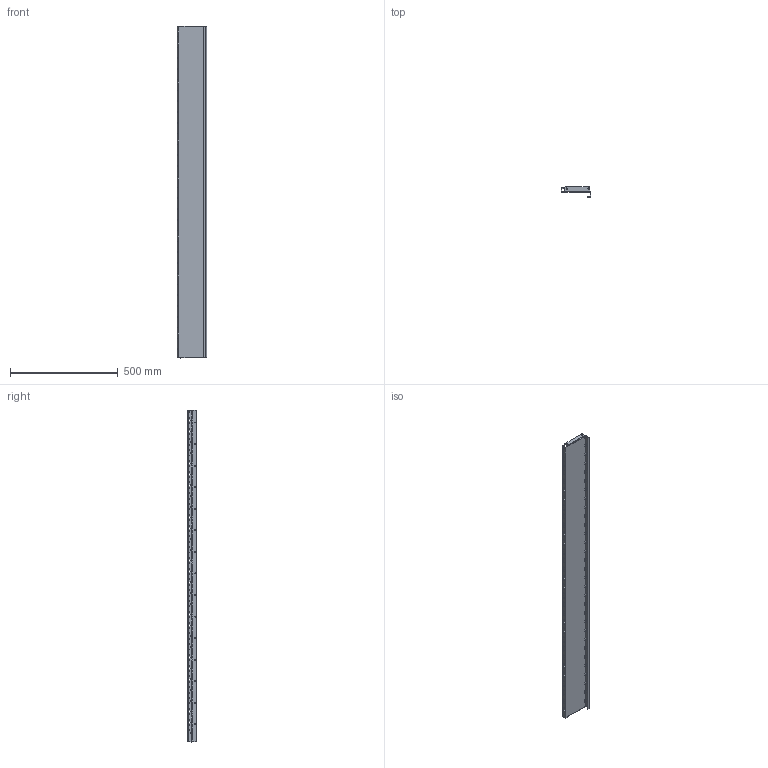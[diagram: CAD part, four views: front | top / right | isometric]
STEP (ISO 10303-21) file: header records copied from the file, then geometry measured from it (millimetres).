
FILE_DESCRIPTION(('CAx-IF Rec.Pracs.---Model Styling and Organization---1.2---2011-12-15','CAx-IF Rec.Pracs.---Geometric and Assembly Validation Properties---4.1---2014-06-16','CAx-IF Rec.Pracs.---PMI Polyline Presentation---2.0---2013-05-24'),'2;1');
FILE_NAME('R5M2ACRR30M10.stp','2021-05-05T11:59:17+03:00',(''),(''),'STEP Interface 4.4 by CT CoreTechnologie','3D_Evolution4.4 by CT CoreTechnologie','');
FILE_SCHEMA(('AUTOMOTIVE_DESIGN { 1 0 10303 214 1 1 1 1 }'));
Length unit declared in the file: millimetre
Products named in the file (2): R5M2ACRR30M10; RB.1401.00.00.0_-02
Assembly tree (1 placements, depth 2):
  R5M2ACRR30M10
    RB.1401.00.00.0_-02
Bounding box: 135 x 45 x 1540 mm (x, y, z)
Surface area: 613579.6 mm2 (no closed solid volume)
Topology: 0 solids, 1 shells, 1012 faces, 3558 edges, 2366 vertices
Faces by surface type: plane 660, cylinder 352
Entity records: 38835 total; most frequent: ORIENTED_EDGE 7116, CARTESIAN_POINT 6938, DIRECTION 6290, EDGE_CURVE 3558, VECTOR 2854, LINE 2854, VERTEX_POINT 2366, AXIS2_PLACEMENT_3D 1718
